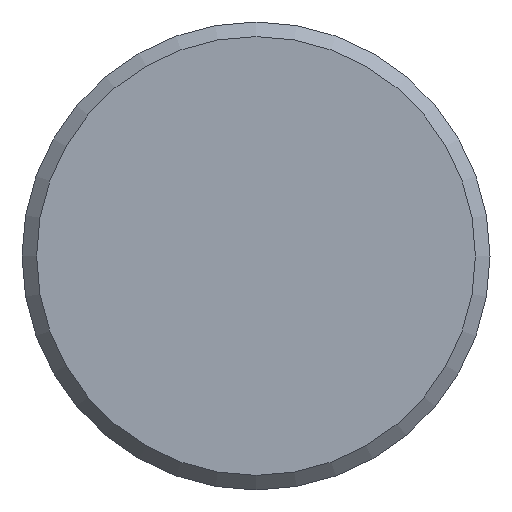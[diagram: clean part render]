
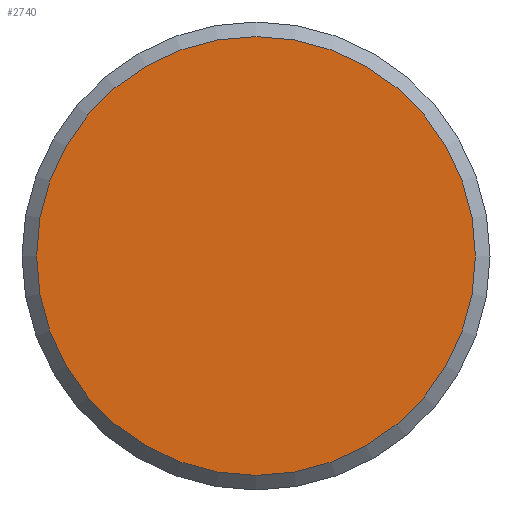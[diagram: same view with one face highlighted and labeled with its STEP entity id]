
A CAD part, left-side view. The second image highlights one B-rep face of the part: STEP entity #2740.
In plain terms, the highlighted planar face has unit normal (-1, 0, 0).
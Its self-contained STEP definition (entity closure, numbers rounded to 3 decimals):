
#991=PLANE('',#2513);
#1022=ORIENTED_EDGE('',*,*,#1384,.F.);
#1200=CIRCLE('',#2512,7.5);
#1292=VERTEX_POINT('',#2235);
#1384=EDGE_CURVE('',#1292,#1292,#1200,.T.);
#1482=EDGE_LOOP('',(#1022));
#1666=FACE_BOUND('',#1482,.T.);
#1861=DIRECTION('',(1.,0.,0.));
#1862=DIRECTION('',(0.,-7.5,0.));
#1863=DIRECTION('',(-1.,0.,0.));
#1864=DIRECTION('',(0.,1.,0.));
#2235=CARTESIAN_POINT('',(24.98,167.699,0.));
#2236=CARTESIAN_POINT('',(24.98,175.199,0.));
#2237=CARTESIAN_POINT('',(24.98,175.199,0.));
#2512=AXIS2_PLACEMENT_3D('',#2236,#1861,#1862);
#2513=AXIS2_PLACEMENT_3D('',#2237,#1863,#1864);
#2740=ADVANCED_FACE('',(#1666),#991,.T.);
